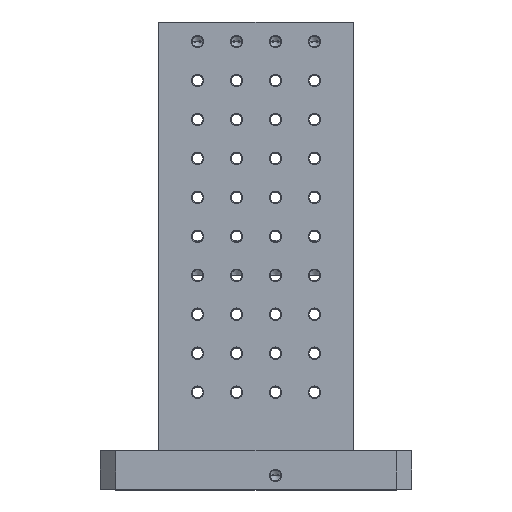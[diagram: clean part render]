
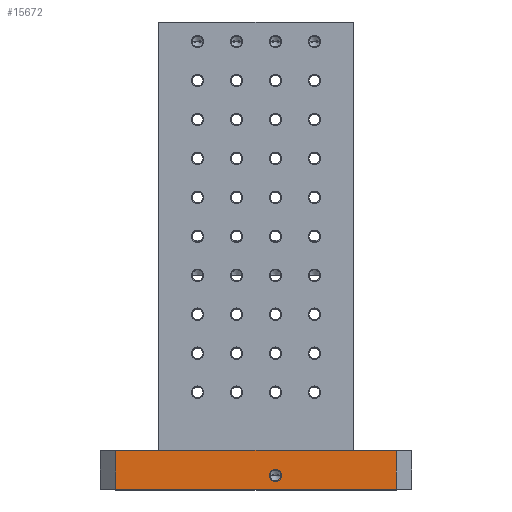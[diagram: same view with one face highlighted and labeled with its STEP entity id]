
A CAD part, top view. The second image highlights one B-rep face of the part: STEP entity #15672.
In plain terms, the highlighted planar face has unit normal (0, 0, 1).
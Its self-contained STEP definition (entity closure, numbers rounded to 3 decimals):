
#5=DIRECTION('',(1.,0.,0.));
#6=VECTOR('',#5,360.);
#7=CARTESIAN_POINT('',(-180.,-25.,200.));
#8=LINE('',#7,#6);
#221=DIRECTION('',(0.,-1.,0.));
#222=VECTOR('',#221,50.);
#223=CARTESIAN_POINT('',(-180.,25.,200.));
#224=LINE('',#223,#222);
#225=DIRECTION('',(0.,-1.,0.));
#226=VECTOR('',#225,50.);
#227=CARTESIAN_POINT('',(180.,25.,200.));
#228=LINE('',#227,#226);
#229=CARTESIAN_POINT('',(25.,-7.,200.));
#230=DIRECTION('',(0.,0.,1.));
#231=DIRECTION('',(-1.,0.,0.));
#232=AXIS2_PLACEMENT_3D('',#229,#230,#231);
#234=CARTESIAN_POINT('',(25.,-7.,200.));
#235=DIRECTION('',(0.,0.,1.));
#236=DIRECTION('',(1.,0.,0.));
#237=AXIS2_PLACEMENT_3D('',#234,#235,#236);
#283=DIRECTION('',(1.,0.,0.));
#284=VECTOR('',#283,360.);
#285=CARTESIAN_POINT('',(-180.,25.,200.));
#286=LINE('',#285,#284);
#12017=CARTESIAN_POINT('',(-180.,-25.,200.));
#12019=VERTEX_POINT('',#12017);
#12023=CARTESIAN_POINT('',(-180.,25.,200.));
#12024=VERTEX_POINT('',#12023);
#12042=CARTESIAN_POINT('',(180.,-25.,200.));
#12044=VERTEX_POINT('',#12042);
#12045=CARTESIAN_POINT('',(180.,25.,200.));
#12046=VERTEX_POINT('',#12045);
#12115=CARTESIAN_POINT('',(18.,-7.,200.));
#12116=CARTESIAN_POINT('',(32.,-7.,200.));
#12117=VERTEX_POINT('',#12115);
#12118=VERTEX_POINT('',#12116);
#15654=CARTESIAN_POINT('',(-200.,-25.,200.));
#15655=DIRECTION('',(0.,0.,1.));
#15656=DIRECTION('',(1.,0.,0.));
#15657=AXIS2_PLACEMENT_3D('',#15654,#15655,#15656);
#15658=PLANE('',#15657);
#15659=ORIENTED_EDGE('',*,*,#15553,.F.);
#15661=ORIENTED_EDGE('',*,*,#15660,.T.);
#15662=ORIENTED_EDGE('',*,*,#15646,.T.);
#15663=ORIENTED_EDGE('',*,*,#15406,.F.);
#15664=EDGE_LOOP('',(#15659,#15661,#15662,#15663));
#15665=FACE_OUTER_BOUND('',#15664,.F.);
#15667=ORIENTED_EDGE('',*,*,#15666,.T.);
#15669=ORIENTED_EDGE('',*,*,#15668,.T.);
#15670=EDGE_LOOP('',(#15667,#15669));
#15671=FACE_BOUND('',#15670,.F.);
#15672=ADVANCED_FACE('',(#15665,#15671),#15658,.T.);
#233=CIRCLE('',#232,7.);
#238=CIRCLE('',#237,7.);
#15406=EDGE_CURVE('',#12019,#12044,#8,.T.);
#15553=EDGE_CURVE('',#12024,#12019,#224,.T.);
#15646=EDGE_CURVE('',#12046,#12044,#228,.T.);
#15660=EDGE_CURVE('',#12024,#12046,#286,.T.);
#15666=EDGE_CURVE('',#12117,#12118,#233,.T.);
#15668=EDGE_CURVE('',#12118,#12117,#238,.T.);
